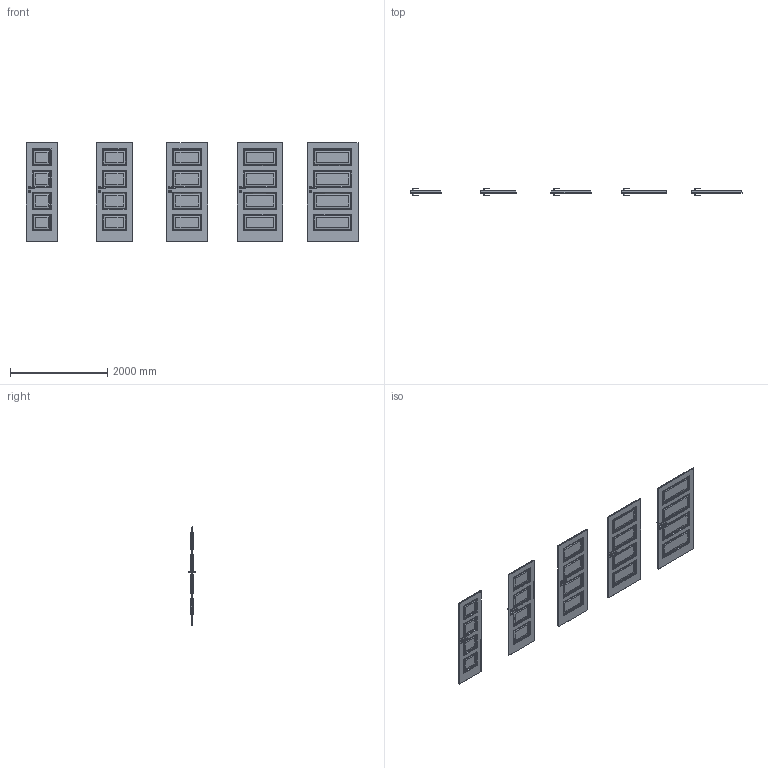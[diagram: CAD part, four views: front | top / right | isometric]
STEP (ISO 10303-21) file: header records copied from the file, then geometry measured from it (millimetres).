
FILE_DESCRIPTION(/* description */ (''),/* implementation_level */ '2;1');
FILE_NAME(/* name */ '049926_A_2-Skrzydło NOVA model 5.1_ polska norma _PN__ przylgowe..stp',/* time_stamp */ '2024-11-08T11:31:15+01:00',/* author */ (''),/* organization */ (''),/* preprocessor_version */ 'ST-DEVELOPER v16',/* originating_system */ 'SIEMENS PLM Software NX 11.0',/* authorisation */ '');
FILE_SCHEMA (('AUTOMOTIVE_DESIGN { 1 0 10303 214 3 1 1 1 }'));
Products named in the file (1): bkni578C7A46mlfz
Bounding box: 6844 x 153.13 x 2030 mm (x, y, z)
Volume: 246583837.6 mm3; surface area: 22514981.9 mm2
Topology: 25 solids, 25 shells, 3730 faces, 9691 edges, 5661 vertices
Faces by surface type: plane 2130, bspline 1160, cylinder 300, sphere 140
Entity records: 168451 total; most frequent: CARTESIAN_POINT 85871, ORIENTED_EDGE 19102, DIRECTION 13376, EDGE_CURVE 9551, LINE 6074, VECTOR 6074, VERTEX_POINT 5661, EDGE_LOOP 4020
